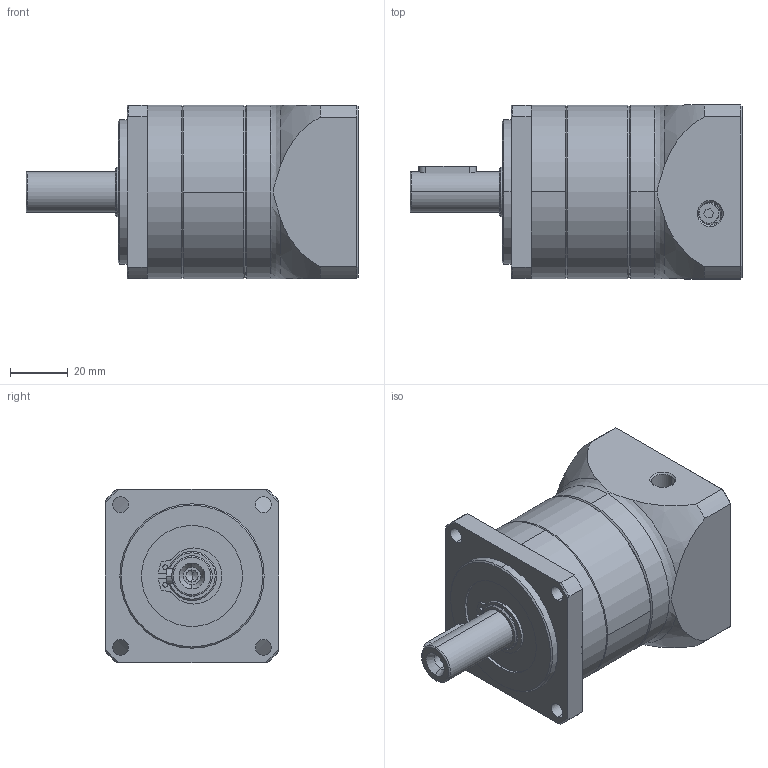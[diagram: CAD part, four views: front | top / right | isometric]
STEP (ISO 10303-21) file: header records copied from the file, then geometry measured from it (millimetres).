
FILE_DESCRIPTION(/* description */ (''),/* implementation_level */ '2;1');
FILE_NAME(/* name */ 'WPF060-L1-38.1-66.7-M4-8-31.5.stp',/* time_stamp */ '2025-07-12T13:47:45+08:00',/* author */ (''),/* organization */ (''),/* preprocessor_version */ 'ST-DEVELOPER v16.7',/* originating_system */ 'SIEMENS PLM Software NX 12.0',/* authorisation */ '');
FILE_SCHEMA (('AUTOMOTIVE_DESIGN { 1 0 10303 214 3 1 1 1 }'));
Length unit declared in the file: millimetre
Products named in the file (9): PL60内齿圈; 17轴用卡簧-A型; PF60上盖板; 键5-5-20; PF60联轴器-8; PF60轴承替代板; 內六角 M4X15螺釘; PF60-SR01-57-38.1-66.67-M5; WPF060-L1-38.1-66.7-M4-6.35-31.5_step
Assembly tree (13 placements, depth 2):
  WPF060-L1-38.1-66.7-M4-6.35-31.5_step
    PF60-SR01-57-38.1-66.67-M5
    內六角 M4X15螺釘  x6
    PF60轴承替代板
    PF60联轴器-8
    键5-5-20
    PF60上盖板
    17轴用卡簧-A型
    PL60内齿圈
Bounding box: 115 x 60.2 x 60.2 mm (x, y, z)
Volume: 226026.7 mm3; surface area: 58473.4 mm2
Topology: 13 solids, 13 shells, 448 faces, 1023 edges, 632 vertices
Faces by surface type: cylinder 177, plane 147, cone 90, torus 30, bspline 4
Entity records: 10975 total; most frequent: CARTESIAN_POINT 2065, DIRECTION 1849, ORIENTED_EDGE 1586, EDGE_CURVE 793, AXIS2_PLACEMENT_3D 756, VERTEX_POINT 502, EDGE_LOOP 425, CIRCLE 398
